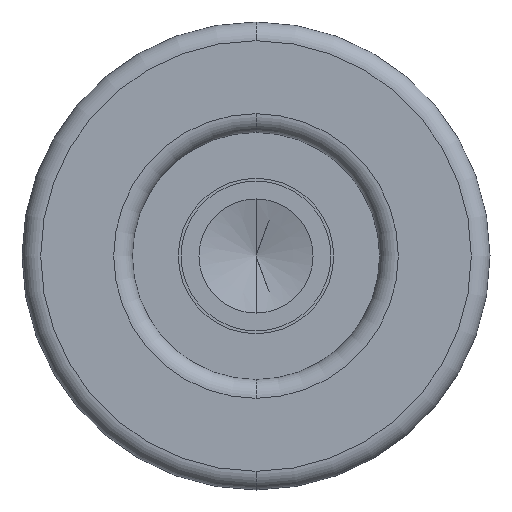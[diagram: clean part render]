
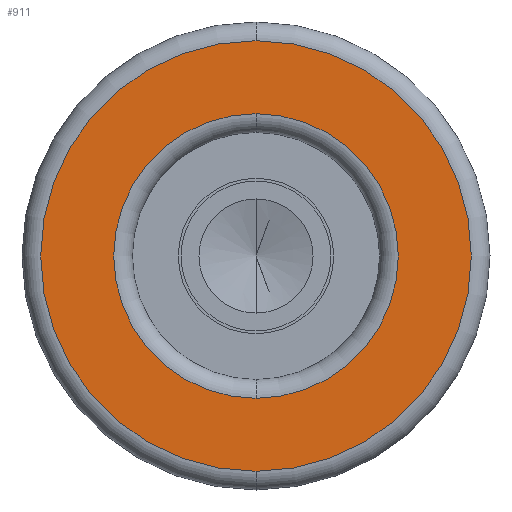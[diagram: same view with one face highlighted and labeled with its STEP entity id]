
A CAD part, front view. The second image highlights one B-rep face of the part: STEP entity #911.
In plain terms, the highlighted planar face has unit normal (0, -1, 0).
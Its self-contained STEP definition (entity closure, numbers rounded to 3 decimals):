
#49 = VERTEX_POINT ( 'NONE', #747 ) ;
#144 = CARTESIAN_POINT ( 'NONE',  ( 0., 0., 11.5 ) ) ;
#384 = DIRECTION ( 'NONE',  ( 0., 1., 0. ) ) ;
#747 = CARTESIAN_POINT ( 'NONE',  ( 0., 0., 7.6 ) ) ;
#911 = ADVANCED_FACE ( 'NONE', ( #5948, #3876 ), #1335, .T. ) ;
#1335 = PLANE ( 'NONE',  #3873 ) ;
#1482 = EDGE_LOOP ( 'NONE', ( #8010, #2171 ) ) ;
#1780 = DIRECTION ( 'NONE',  ( 0., -1., 0. ) ) ;
#2171 = ORIENTED_EDGE ( 'NONE', *, *, #7127, .T. ) ;
#2331 = ORIENTED_EDGE ( 'NONE', *, *, #3736, .T. ) ;
#2388 = DIRECTION ( 'NONE',  ( 0., 0., -1. ) ) ;
#2413 = DIRECTION ( 'NONE',  ( 0., 0., -1. ) ) ;
#2511 = DIRECTION ( 'NONE',  ( 0., 0., -1. ) ) ;
#3022 = CARTESIAN_POINT ( 'NONE',  ( 0., 0., 0. ) ) ;
#3196 = VERTEX_POINT ( 'NONE', #8516 ) ;
#3292 = CIRCLE ( 'NONE', #7549, 11.5 ) ;
#3732 = VERTEX_POINT ( 'NONE', #6355 ) ;
#3736 = EDGE_CURVE ( 'NONE', #3196, #4165, #3292, .T. ) ;
#3873 = AXIS2_PLACEMENT_3D ( 'NONE', #7891, #1780, #2511 ) ;
#3876 = FACE_OUTER_BOUND ( 'NONE', #6116, .T. ) ;
#3896 = ORIENTED_EDGE ( 'NONE', *, *, #4023, .T. ) ;
#4023 = EDGE_CURVE ( 'NONE', #4165, #3196, #5259, .T. ) ;
#4061 = CARTESIAN_POINT ( 'NONE',  ( 0., 0., 0. ) ) ;
#4165 = VERTEX_POINT ( 'NONE', #144 ) ;
#4400 = DIRECTION ( 'NONE',  ( 0., -1., 0. ) ) ;
#4714 = DIRECTION ( 'NONE',  ( 0., -1., 0. ) ) ;
#4815 = CIRCLE ( 'NONE', #7490, 7.6 ) ;
#4834 = DIRECTION ( 'NONE',  ( 0., 0., -1. ) ) ;
#5259 = CIRCLE ( 'NONE', #8468, 11.5 ) ;
#5825 = AXIS2_PLACEMENT_3D ( 'NONE', #3022, #384, #2388 ) ;
#5948 = FACE_BOUND ( 'NONE', #1482, .T. ) ;
#6100 = EDGE_CURVE ( 'NONE', #3732, #49, #8320, .T. ) ;
#6116 = EDGE_LOOP ( 'NONE', ( #2331, #3896 ) ) ;
#6355 = CARTESIAN_POINT ( 'NONE',  ( 0., 0., -7.6 ) ) ;
#6705 = CARTESIAN_POINT ( 'NONE',  ( 0., 0., 0. ) ) ;
#7127 = EDGE_CURVE ( 'NONE', #49, #3732, #4815, .T. ) ;
#7373 = DIRECTION ( 'NONE',  ( 0., 0., -1. ) ) ;
#7434 = DIRECTION ( 'NONE',  ( 0., 1., 0. ) ) ;
#7490 = AXIS2_PLACEMENT_3D ( 'NONE', #6705, #7434, #7373 ) ;
#7549 = AXIS2_PLACEMENT_3D ( 'NONE', #7756, #4400, #2413 ) ;
#7756 = CARTESIAN_POINT ( 'NONE',  ( 0., 0., 0. ) ) ;
#7891 = CARTESIAN_POINT ( 'NONE',  ( -6.6, 0., 0. ) ) ;
#8010 = ORIENTED_EDGE ( 'NONE', *, *, #6100, .T. ) ;
#8320 = CIRCLE ( 'NONE', #5825, 7.6 ) ;
#8468 = AXIS2_PLACEMENT_3D ( 'NONE', #4061, #4714, #4834 ) ;
#8516 = CARTESIAN_POINT ( 'NONE',  ( 0., 0., -11.5 ) ) ;
